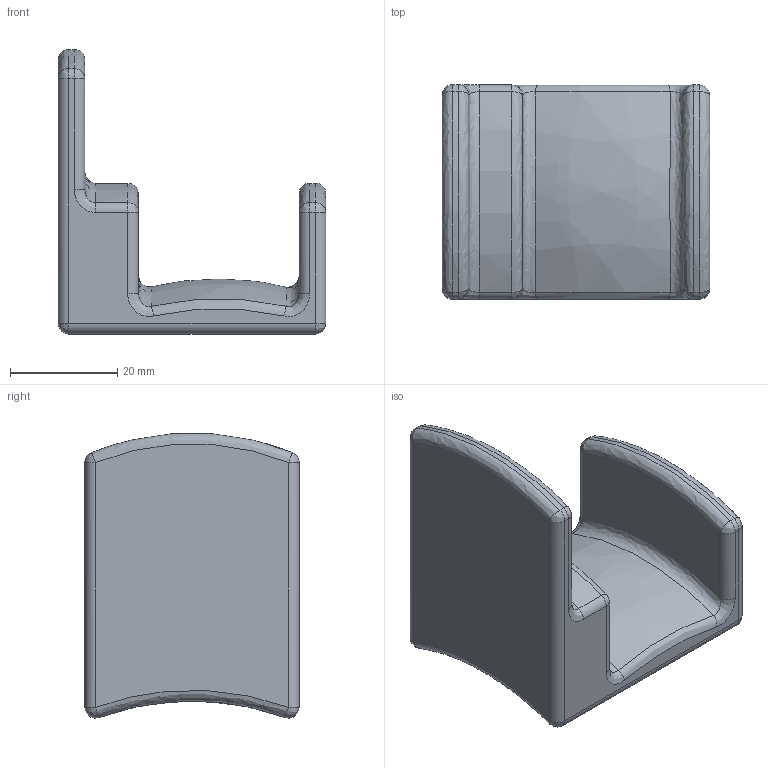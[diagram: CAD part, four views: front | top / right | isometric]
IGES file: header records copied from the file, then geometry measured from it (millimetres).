
Global section: file name: Beats_Headphone_Hanger v1; native system: unknown; preprocessor: unknown; author: unknown; organization: unknown; date: 20200823.174501; units: millimetre
Bounding box: 50 x 40 x 53.07 mm (x, y, z)
Volume: 32102.4 mm3; surface area: 10525.7 mm2
Topology: 1 solids, 1 shells, 74 faces, 153 edges, 83 vertices
Faces by surface type: bspline 74
